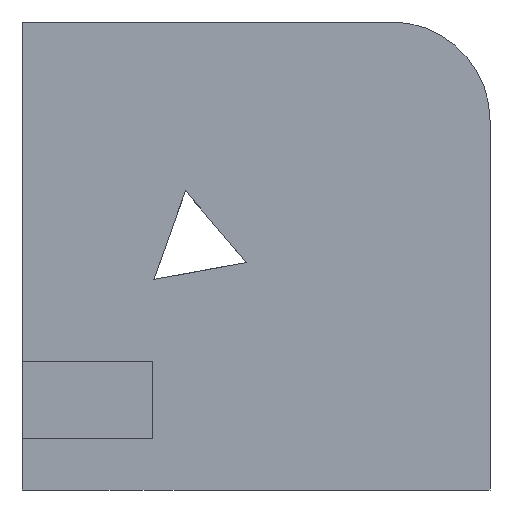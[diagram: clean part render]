
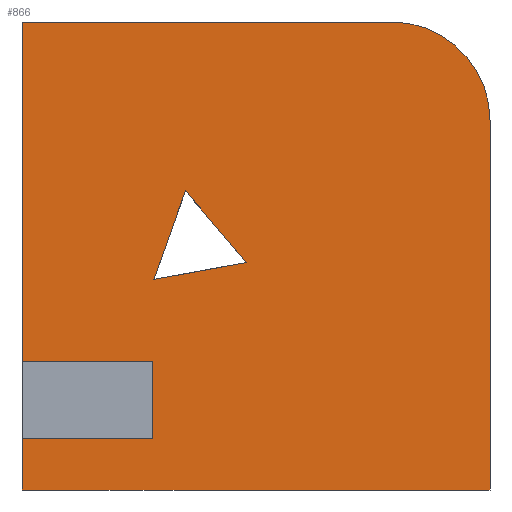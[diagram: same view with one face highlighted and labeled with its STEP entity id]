
A CAD part, front view. The second image highlights one B-rep face of the part: STEP entity #866.
In plain terms, the highlighted planar face has unit normal (0, -1, 0).
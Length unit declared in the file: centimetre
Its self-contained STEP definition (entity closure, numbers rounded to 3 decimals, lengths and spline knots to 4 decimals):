
#3 = EDGE_CURVE ( 'NONE', #647, #1065, #613, .T. ) ;
#17 = DIRECTION ( 'NONE',  ( 1., 0., 0. ) ) ;
#23 = ORIENTED_EDGE ( 'NONE', *, *, #545, .T. ) ;
#27 = VECTOR ( 'NONE', #700, 100. ) ;
#41 = ORIENTED_EDGE ( 'NONE', *, *, #1109, .T. ) ;
#45 = CARTESIAN_POINT ( 'NONE',  ( 279.3706, 0., 274.9509 ) ) ;
#64 = LINE ( 'NONE', #920, #146 ) ;
#71 = CARTESIAN_POINT ( 'NONE',  ( 279.3706, 0., 109.4125 ) ) ;
#73 = VERTEX_POINT ( 'NONE', #452 ) ;
#93 = PLANE ( 'NONE',  #1076 ) ;
#98 = EDGE_LOOP ( 'NONE', ( #1050, #974, #879, #766, #343, #1121, #105, #1202, #578 ) ) ;
#105 = ORIENTED_EDGE ( 'NONE', *, *, #992, .F. ) ;
#115 = CARTESIAN_POINT ( 'NONE',  ( 0., 0., 1000. ) ) ;
#130 = CARTESIAN_POINT ( 'NONE',  ( 0., 0., 274.9509 ) ) ;
#144 = EDGE_CURVE ( 'NONE', #947, #748, #64, .T. ) ;
#146 = VECTOR ( 'NONE', #1020, 100. ) ;
#147 = CARTESIAN_POINT ( 'NONE',  ( 790.0848, 0., 1000. ) ) ;
#149 = CARTESIAN_POINT ( 'NONE',  ( 0., 0., 1000. ) ) ;
#151 = LINE ( 'NONE', #990, #461 ) ;
#159 = DIRECTION ( 'NONE',  ( 0., -1., 0. ) ) ;
#162 = CARTESIAN_POINT ( 'NONE',  ( 349.2484, 0., 639.2471 ) ) ;
#167 = CARTESIAN_POINT ( 'NONE',  ( 281.8045, 0., 449.8409 ) ) ;
#214 = LINE ( 'NONE', #1158, #485 ) ;
#215 = VERTEX_POINT ( 'NONE', #993 ) ;
#233 = VERTEX_POINT ( 'NONE', #130 ) ;
#255 = FACE_BOUND ( 'NONE', #1066, .T. ) ;
#270 = VECTOR ( 'NONE', #1197, 100. ) ;
#286 = DIRECTION ( 'NONE',  ( 0., 0., 1. ) ) ;
#288 = DIRECTION ( 'NONE',  ( 1., 0., 0. ) ) ;
#299 = VERTEX_POINT ( 'NONE', #638 ) ;
#324 = AXIS2_PLACEMENT_3D ( 'NONE', #780, #159, #286 ) ;
#327 = DIRECTION ( 'NONE',  ( -1., 0., 0. ) ) ;
#339 = LINE ( 'NONE', #1011, #655 ) ;
#343 = ORIENTED_EDGE ( 'NONE', *, *, #616, .F. ) ;
#377 = DIRECTION ( 'NONE',  ( 0., 0., 1. ) ) ;
#423 = EDGE_CURVE ( 'NONE', #1065, #782, #1134, .T. ) ;
#424 = DIRECTION ( 'NONE',  ( -1., 0., 0. ) ) ;
#452 = CARTESIAN_POINT ( 'NONE',  ( 281.8045, 0., 449.8409 ) ) ;
#461 = VECTOR ( 'NONE', #1004, 100. ) ;
#479 = CARTESIAN_POINT ( 'NONE',  ( 1000., 0., 1000. ) ) ;
#485 = VECTOR ( 'NONE', #798, 100. ) ;
#487 = EDGE_CURVE ( 'NONE', #1178, #647, #339, .T. ) ;
#530 = VERTEX_POINT ( 'NONE', #1204 ) ;
#545 = EDGE_CURVE ( 'NONE', #748, #73, #550, .T. ) ;
#550 = LINE ( 'NONE', #167, #270 ) ;
#578 = ORIENTED_EDGE ( 'NONE', *, *, #849, .F. ) ;
#598 = VECTOR ( 'NONE', #377, 100. ) ;
#613 = LINE ( 'NONE', #149, #27 ) ;
#615 = VECTOR ( 'NONE', #17, 100. ) ;
#616 = EDGE_CURVE ( 'NONE', #530, #782, #1148, .T. ) ;
#620 = LINE ( 'NONE', #45, #1058 ) ;
#638 = CARTESIAN_POINT ( 'NONE',  ( 279.3706, 0., 274.9509 ) ) ;
#647 = VERTEX_POINT ( 'NONE', #968 ) ;
#655 = VECTOR ( 'NONE', #327, 100. ) ;
#668 = EDGE_CURVE ( 'NONE', #530, #833, #859, .T. ) ;
#678 = DIRECTION ( 'NONE',  ( 0., 0., -1. ) ) ;
#700 = DIRECTION ( 'NONE',  ( 0., 0., -1. ) ) ;
#715 = VECTOR ( 'NONE', #678, 100. ) ;
#723 = DIRECTION ( 'NONE',  ( 0., 1., 0. ) ) ;
#744 = FACE_OUTER_BOUND ( 'NONE', #98, .T. ) ;
#748 = VERTEX_POINT ( 'NONE', #1081 ) ;
#756 = LINE ( 'NONE', #115, #939 ) ;
#766 = ORIENTED_EDGE ( 'NONE', *, *, #423, .T. ) ;
#780 = CARTESIAN_POINT ( 'NONE',  ( 790.0848, 0., 790.0848 ) ) ;
#782 = VERTEX_POINT ( 'NONE', #985 ) ;
#798 = DIRECTION ( 'NONE',  ( 0.335, 0., 0.942 ) ) ;
#826 = LINE ( 'NONE', #71, #598 ) ;
#833 = VERTEX_POINT ( 'NONE', #147 ) ;
#849 = EDGE_CURVE ( 'NONE', #299, #233, #620, .T. ) ;
#859 = CIRCLE ( 'NONE', #324, 209.9152 ) ;
#866 = ADVANCED_FACE ( 'NONE', ( #255, #744 ), #93, .F. ) ;
#879 = ORIENTED_EDGE ( 'NONE', *, *, #3, .T. ) ;
#920 = CARTESIAN_POINT ( 'NONE',  ( 479.557, 0., 486.1358 ) ) ;
#922 = EDGE_CURVE ( 'NONE', #1178, #299, #826, .T. ) ;
#939 = VECTOR ( 'NONE', #288, 100. ) ;
#947 = VERTEX_POINT ( 'NONE', #162 ) ;
#968 = CARTESIAN_POINT ( 'NONE',  ( 0., 0., 109.4125 ) ) ;
#974 = ORIENTED_EDGE ( 'NONE', *, *, #487, .T. ) ;
#981 = ORIENTED_EDGE ( 'NONE', *, *, #144, .T. ) ;
#985 = CARTESIAN_POINT ( 'NONE',  ( 1000., 0., 0. ) ) ;
#990 = CARTESIAN_POINT ( 'NONE',  ( 0., 0., 1000. ) ) ;
#992 = EDGE_CURVE ( 'NONE', #215, #833, #756, .T. ) ;
#993 = CARTESIAN_POINT ( 'NONE',  ( 0., 0., 1000. ) ) ;
#1004 = DIRECTION ( 'NONE',  ( 0., 0., -1. ) ) ;
#1011 = CARTESIAN_POINT ( 'NONE',  ( 279.3706, 0., 109.4125 ) ) ;
#1020 = DIRECTION ( 'NONE',  ( 0.648, 0., -0.762 ) ) ;
#1030 = DIRECTION ( 'NONE',  ( 0., 0., 1. ) ) ;
#1046 = CARTESIAN_POINT ( 'NONE',  ( 0., 0., 0. ) ) ;
#1049 = CARTESIAN_POINT ( 'NONE',  ( 0., 0., 0. ) ) ;
#1050 = ORIENTED_EDGE ( 'NONE', *, *, #922, .F. ) ;
#1058 = VECTOR ( 'NONE', #424, 100. ) ;
#1065 = VERTEX_POINT ( 'NONE', #1046 ) ;
#1066 = EDGE_LOOP ( 'NONE', ( #981, #23, #41 ) ) ;
#1076 = AXIS2_PLACEMENT_3D ( 'NONE', #1108, #723, #1030 ) ;
#1081 = CARTESIAN_POINT ( 'NONE',  ( 479.557, 0., 486.1358 ) ) ;
#1108 = CARTESIAN_POINT ( 'NONE',  ( 0., 0., 1000. ) ) ;
#1109 = EDGE_CURVE ( 'NONE', #73, #947, #214, .T. ) ;
#1121 = ORIENTED_EDGE ( 'NONE', *, *, #668, .T. ) ;
#1134 = LINE ( 'NONE', #1049, #615 ) ;
#1148 = LINE ( 'NONE', #479, #715 ) ;
#1155 = EDGE_CURVE ( 'NONE', #215, #233, #151, .T. ) ;
#1158 = CARTESIAN_POINT ( 'NONE',  ( 349.2484, 0., 639.2471 ) ) ;
#1175 = CARTESIAN_POINT ( 'NONE',  ( 279.3706, 0., 109.4125 ) ) ;
#1178 = VERTEX_POINT ( 'NONE', #1175 ) ;
#1197 = DIRECTION ( 'NONE',  ( -0.984, 0., -0.181 ) ) ;
#1202 = ORIENTED_EDGE ( 'NONE', *, *, #1155, .T. ) ;
#1204 = CARTESIAN_POINT ( 'NONE',  ( 1000., 0., 790.0848 ) ) ;
